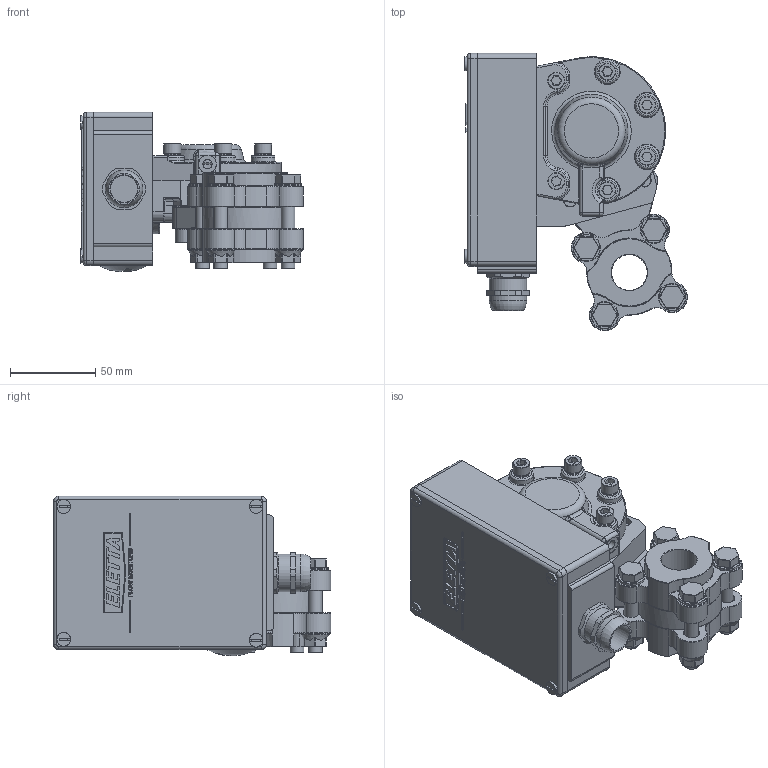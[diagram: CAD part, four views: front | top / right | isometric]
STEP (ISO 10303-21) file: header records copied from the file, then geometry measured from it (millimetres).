
FILE_DESCRIPTION(/* description */ ('Alibre Inc.'),/* implementation_level */ '2;1');
FILE_NAME(/* name */ 'export0',/* time_stamp */ '2012-10-15T10:55:03+02:00',/* author */ (''),/* organization */ (''),/* preprocessor_version */ 'ST-DEVELOPER v14',/* originating_system */ 'Alibre',/* authorisation */ '');
FILE_SCHEMA (('CONFIG_CONTROL_DESIGN'));
Length unit declared in the file: centimetre
Products named in the file (16): ID_1; ID_2; ID_3; ID_4; ID_5; ID_6; ID_7; ID_8; ID_9; ID_10; ID_11; ID_12; ID_13; ID_14
Bounding box: 130.84 x 162.65 x 93.66 mm (x, y, z)
Volume: 400368.3 mm3; surface area: 185092.2 mm2
Topology: 33 solids, 33 shells, 1523 faces, 3558 edges, 2151 vertices
Faces by surface type: plane 746, cylinder 306, cone 202, bspline 163, torus 93, sphere 13
Full cylindrical faces by diameter (mm): 5 x24, 5.5 x1, 6 x12, 6.038 x2, 6.5 x6, 8 x19, 8.4 x4, 9 x8, 9.6 x6, 10 x7, 10.5 x1, 12 x3, 13 x2, 14 x3, 16 x5, 17.966 x1, 19.5 x1, 21 x2, 22 x2, 22.5 x4, 26 x1, 29 x1, 31 x1
Entity records: 41931 total; most frequent: CARTESIAN_POINT 15969, ORIENTED_EDGE 4988, DIRECTION 4289, EDGE_CURVE 2494, AXIS2_PLACEMENT_3D 1781, VERTEX_POINT 1630, EDGE_LOOP 1416, FACE_BOUND 1416
